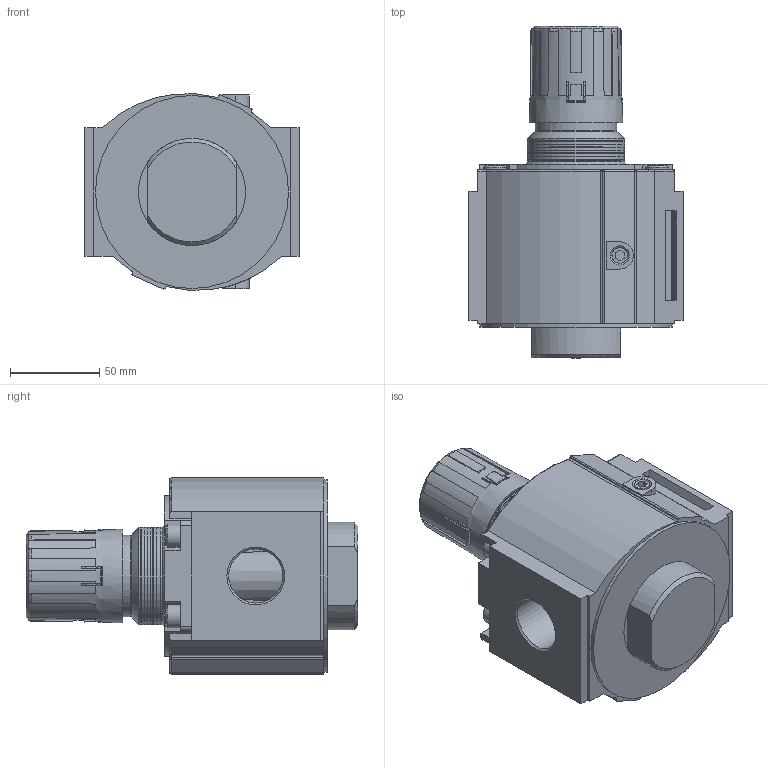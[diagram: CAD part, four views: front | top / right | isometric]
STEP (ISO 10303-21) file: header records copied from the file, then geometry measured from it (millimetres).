
FILE_DESCRIPTION(/* description */ ('','CAx-IF Rec.Pracs.---Representation and Presentation of Product Manufacturing Information (PMI)---4.0---2014-10-13'),/* implementation_level */ '2;1');
FILE_NAME(/* name */ 'B-R530-08.step',/* time_stamp */ '2025-02-19T14:43:02+01:00',/* author */ (''),/* organization */ (''),/* preprocessor_version */ 'ST-DEVELOPER v20',/* originating_system */ 'Autodesk Translation Framework v13.20.0.188',/* authorisation */ '');
FILE_SCHEMA (('AP242_MANAGED_MODEL_BASED_3D_ENGINEERING_MIM_LF { 1 0 10303 442 1 1 4 }'));
Products named in the file (10): R532 (v1~recovered); SN-2801-01-04 BODY-CASTING R70; SN-2838-01-BONNET-CASTING; SN-3014-35 ORING LOUVER; SN-2989-01-04-DUMMY-CAP-R70; R70 BOTTOM PLUG IN METAL; B520_01-RING; B520_KNOB-ADJ; Socket Head Cap Screw_AM_B18.3.1M - 8 x 1.25 x 20 Hex SHCS -- 20NHX; SN-2736-01 GRUB_SCREW
Assembly tree (13 placements, depth 2):
  R532 (v1~recovered)
    SN-2801-01-04 BODY-CASTING R70
    SN-2838-01-BONNET-CASTING
    Socket Head Cap Screw_AM_B18.3.1M - 8 x 1.25 x 20 Hex SHCS -- 20NHX  x4
    SN-2736-01 GRUB_SCREW  x2
    SN-3014-35 ORING LOUVER
    SN-2989-01-04-DUMMY-CAP-R70
    R70 BOTTOM PLUG IN METAL
    B520_01-RING
    B520_KNOB-ADJ
Bounding box: 120 x 185.75 x 109.77 mm (x, y, z)
Volume: 762786.6 mm3; surface area: 216125 mm2
Topology: 13 solids, 15 shells, 1466 faces, 3924 edges, 2572 vertices
Faces by surface type: plane 883, cylinder 209, bspline 206, cone 97, torus 71
Full cylindrical faces by diameter (mm): 6.7 x2, 8 x4, 8.64 x2, 8.788 x4, 11.4 x1, 11.7 x1, 13 x4, 15.8 x1, 18.4 x1, 19.3 x1, 25 x1, 26 x1, 30.3 x2, 32 x1, 42 x1, 42.877 x1, 42.899 x2, 43.4 x1, 44.2 x1, 44.713 x1, 45 x1, 45.5 x1, 45.694 x1, 46.25 x1, 46.994 x1, 48 x1, 51 x1, 54.3 x8, 54.59 x2, 54.761 x5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
Entity records: 56094 total; most frequent: CARTESIAN_POINT 21894, ORIENTED_EDGE 7514, DIRECTION 6362, EDGE_CURVE 3757, VERTEX_POINT 2474, LINE 2228, VECTOR 2228, AXIS2_PLACEMENT_3D 2067
